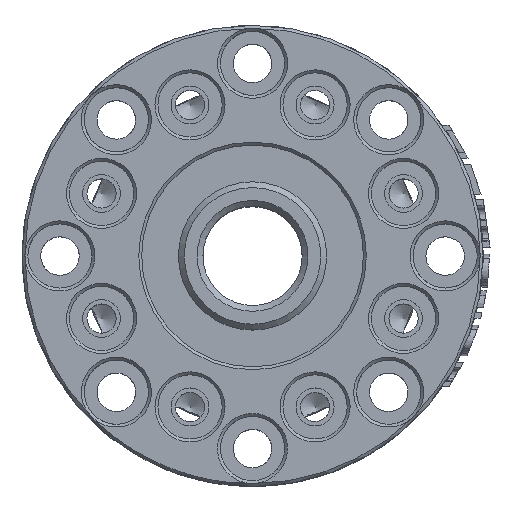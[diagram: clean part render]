
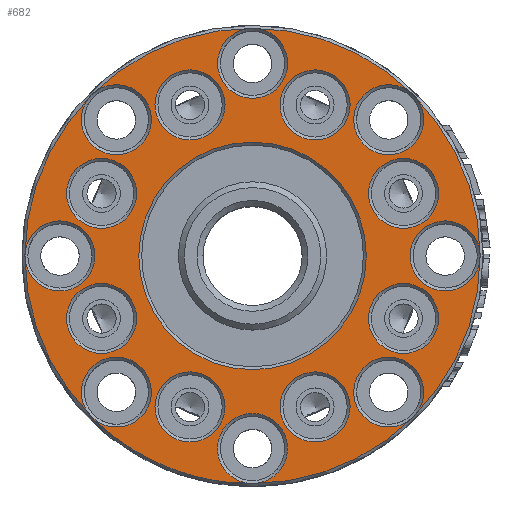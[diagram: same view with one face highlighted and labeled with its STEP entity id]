
A CAD part, top view. The second image highlights one B-rep face of the part: STEP entity #682.
In plain terms, the highlighted planar face has unit normal (0, 0, 1).
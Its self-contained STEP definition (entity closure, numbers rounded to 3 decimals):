
#295=PLANE('',#5120);
#682=ADVANCED_FACE('',(#1031,#1032,#1033,#1034,#1035,#1036,#1037,#1038,
#1039,#1040),#295,.F.);
#1031=FACE_BOUND('',#1441,.T.);
#1032=FACE_BOUND('',#1442,.T.);
#1033=FACE_BOUND('',#1443,.T.);
#1034=FACE_BOUND('',#1444,.T.);
#1035=FACE_BOUND('',#1445,.T.);
#1036=FACE_BOUND('',#1446,.T.);
#1037=FACE_BOUND('',#1447,.T.);
#1038=FACE_BOUND('',#1448,.T.);
#1039=FACE_BOUND('',#1449,.T.);
#1040=FACE_BOUND('',#1450,.T.);
#1441=EDGE_LOOP('',(#3215));
#1442=EDGE_LOOP('',(#3216));
#1443=EDGE_LOOP('',(#3217));
#1444=EDGE_LOOP('',(#3218));
#1445=EDGE_LOOP('',(#3219));
#1446=EDGE_LOOP('',(#3220));
#1447=EDGE_LOOP('',(#3221));
#1448=EDGE_LOOP('',(#3222));
#1449=EDGE_LOOP('',(#3223));
#1450=EDGE_LOOP('',(#3224,#3225,#3226,#3227,#3228,#3229,#3230,#3231,#3232,
#3233,#3234,#3235,#3236,#3237,#3238,#3239));
#1939=CIRCLE('',#4972,39.);
#1940=CIRCLE('',#4973,39.);
#1941=CIRCLE('',#4974,39.);
#1942=CIRCLE('',#4975,39.);
#1943=CIRCLE('',#4976,39.);
#1944=CIRCLE('',#4977,39.);
#1945=CIRCLE('',#4978,39.);
#1946=CIRCLE('',#4979,39.);
#1948=CIRCLE('',#4982,19.5);
#1950=CIRCLE('',#4985,6.);
#1955=CIRCLE('',#4993,6.);
#1960=CIRCLE('',#5001,6.);
#1965=CIRCLE('',#5009,6.);
#1970=CIRCLE('',#5017,6.);
#1975=CIRCLE('',#5025,6.);
#1980=CIRCLE('',#5033,6.);
#1985=CIRCLE('',#5041,6.);
#1990=CIRCLE('',#5049,6.);
#1994=CIRCLE('',#5055,6.);
#1998=CIRCLE('',#5061,6.);
#2002=CIRCLE('',#5067,6.);
#2006=CIRCLE('',#5073,6.);
#2010=CIRCLE('',#5079,6.);
#2014=CIRCLE('',#5085,6.);
#2018=CIRCLE('',#5091,6.);
#3215=ORIENTED_EDGE('',*,*,#4264,.T.);
#3216=ORIENTED_EDGE('',*,*,#4266,.F.);
#3217=ORIENTED_EDGE('',*,*,#4271,.F.);
#3218=ORIENTED_EDGE('',*,*,#4276,.F.);
#3219=ORIENTED_EDGE('',*,*,#4281,.F.);
#3220=ORIENTED_EDGE('',*,*,#4286,.F.);
#3221=ORIENTED_EDGE('',*,*,#4291,.F.);
#3222=ORIENTED_EDGE('',*,*,#4296,.F.);
#3223=ORIENTED_EDGE('',*,*,#4301,.F.);
#3224=ORIENTED_EDGE('',*,*,#4312,.F.);
#3225=ORIENTED_EDGE('',*,*,#4259,.T.);
#3226=ORIENTED_EDGE('',*,*,#4306,.F.);
#3227=ORIENTED_EDGE('',*,*,#4258,.T.);
#3228=ORIENTED_EDGE('',*,*,#4348,.F.);
#3229=ORIENTED_EDGE('',*,*,#4257,.T.);
#3230=ORIENTED_EDGE('',*,*,#4342,.F.);
#3231=ORIENTED_EDGE('',*,*,#4256,.T.);
#3232=ORIENTED_EDGE('',*,*,#4336,.F.);
#3233=ORIENTED_EDGE('',*,*,#4255,.T.);
#3234=ORIENTED_EDGE('',*,*,#4330,.F.);
#3235=ORIENTED_EDGE('',*,*,#4262,.T.);
#3236=ORIENTED_EDGE('',*,*,#4324,.F.);
#3237=ORIENTED_EDGE('',*,*,#4261,.T.);
#3238=ORIENTED_EDGE('',*,*,#4318,.F.);
#3239=ORIENTED_EDGE('',*,*,#4260,.T.);
#3655=VERTEX_POINT('',#8921);
#3656=VERTEX_POINT('',#8922);
#3657=VERTEX_POINT('',#8924);
#3658=VERTEX_POINT('',#8926);
#3659=VERTEX_POINT('',#8928);
#3660=VERTEX_POINT('',#8930);
#3661=VERTEX_POINT('',#8932);
#3662=VERTEX_POINT('',#8934);
#3664=VERTEX_POINT('',#8940);
#3666=VERTEX_POINT('',#8945);
#3671=VERTEX_POINT('',#8958);
#3676=VERTEX_POINT('',#8971);
#3681=VERTEX_POINT('',#8984);
#3686=VERTEX_POINT('',#8997);
#3691=VERTEX_POINT('',#9010);
#3696=VERTEX_POINT('',#9023);
#3701=VERTEX_POINT('',#9036);
#4255=EDGE_CURVE('',#3655,#3656,#1939,.T.);
#4256=EDGE_CURVE('',#3657,#3655,#1940,.T.);
#4257=EDGE_CURVE('',#3658,#3657,#1941,.T.);
#4258=EDGE_CURVE('',#3659,#3658,#1942,.T.);
#4259=EDGE_CURVE('',#3660,#3659,#1943,.T.);
#4260=EDGE_CURVE('',#3661,#3660,#1944,.T.);
#4261=EDGE_CURVE('',#3662,#3661,#1945,.T.);
#4262=EDGE_CURVE('',#3656,#3662,#1946,.T.);
#4264=EDGE_CURVE('',#3664,#3664,#1948,.T.);
#4266=EDGE_CURVE('',#3666,#3666,#1950,.T.);
#4271=EDGE_CURVE('',#3671,#3671,#1955,.T.);
#4276=EDGE_CURVE('',#3676,#3676,#1960,.T.);
#4281=EDGE_CURVE('',#3681,#3681,#1965,.T.);
#4286=EDGE_CURVE('',#3686,#3686,#1970,.T.);
#4291=EDGE_CURVE('',#3691,#3691,#1975,.T.);
#4296=EDGE_CURVE('',#3696,#3696,#1980,.T.);
#4301=EDGE_CURVE('',#3701,#3701,#1985,.T.);
#4306=EDGE_CURVE('',#3659,#3659,#1990,.T.);
#4312=EDGE_CURVE('',#3660,#3660,#1994,.T.);
#4318=EDGE_CURVE('',#3661,#3661,#1998,.T.);
#4324=EDGE_CURVE('',#3662,#3662,#2002,.T.);
#4330=EDGE_CURVE('',#3656,#3656,#2006,.T.);
#4336=EDGE_CURVE('',#3655,#3655,#2010,.T.);
#4342=EDGE_CURVE('',#3657,#3657,#2014,.T.);
#4348=EDGE_CURVE('',#3658,#3658,#2018,.T.);
#4972=AXIS2_PLACEMENT_3D('',#8920,#5970,#5971);
#4973=AXIS2_PLACEMENT_3D('',#8923,#5972,#5973);
#4974=AXIS2_PLACEMENT_3D('',#8925,#5974,#5975);
#4975=AXIS2_PLACEMENT_3D('',#8927,#5976,#5977);
#4976=AXIS2_PLACEMENT_3D('',#8929,#5978,#5979);
#4977=AXIS2_PLACEMENT_3D('',#8931,#5980,#5981);
#4978=AXIS2_PLACEMENT_3D('',#8933,#5982,#5983);
#4979=AXIS2_PLACEMENT_3D('',#8935,#5984,#5985);
#4982=AXIS2_PLACEMENT_3D('',#8939,#5990,#5991);
#4985=AXIS2_PLACEMENT_3D('',#8944,#5996,#5997);
#4993=AXIS2_PLACEMENT_3D('',#8957,#6012,#6013);
#5001=AXIS2_PLACEMENT_3D('',#8970,#6028,#6029);
#5009=AXIS2_PLACEMENT_3D('',#8983,#6044,#6045);
#5017=AXIS2_PLACEMENT_3D('',#8996,#6060,#6061);
#5025=AXIS2_PLACEMENT_3D('',#9009,#6076,#6077);
#5033=AXIS2_PLACEMENT_3D('',#9022,#6092,#6093);
#5041=AXIS2_PLACEMENT_3D('',#9035,#6108,#6109);
#5049=AXIS2_PLACEMENT_3D('',#9048,#6124,#6125);
#5055=AXIS2_PLACEMENT_3D('',#9067,#6136,#6137);
#5061=AXIS2_PLACEMENT_3D('',#9086,#6148,#6149);
#5067=AXIS2_PLACEMENT_3D('',#9105,#6160,#6161);
#5073=AXIS2_PLACEMENT_3D('',#9124,#6172,#6173);
#5079=AXIS2_PLACEMENT_3D('',#9143,#6184,#6185);
#5085=AXIS2_PLACEMENT_3D('',#9162,#6196,#6197);
#5091=AXIS2_PLACEMENT_3D('',#9181,#6208,#6209);
#5120=AXIS2_PLACEMENT_3D('',#9225,#6266,#6267);
#5970=DIRECTION('',(0.,0.,1.));
#5971=DIRECTION('',(-1.,0.,0.));
#5972=DIRECTION('',(0.,0.,1.));
#5973=DIRECTION('',(-1.,0.,0.));
#5974=DIRECTION('',(0.,0.,1.));
#5975=DIRECTION('',(-1.,0.,0.));
#5976=DIRECTION('',(0.,0.,1.));
#5977=DIRECTION('',(-1.,0.,0.));
#5978=DIRECTION('',(0.,0.,1.));
#5979=DIRECTION('',(-1.,0.,0.));
#5980=DIRECTION('',(0.,0.,1.));
#5981=DIRECTION('',(-1.,0.,0.));
#5982=DIRECTION('',(0.,0.,1.));
#5983=DIRECTION('',(-1.,0.,0.));
#5984=DIRECTION('',(0.,0.,1.));
#5985=DIRECTION('',(-1.,0.,0.));
#5990=DIRECTION('',(0.,0.,-1.));
#5991=DIRECTION('',(-1.,0.,0.));
#5996=DIRECTION('',(0.,0.,1.));
#5997=DIRECTION('',(1.,0.,0.));
#6012=DIRECTION('',(0.,0.,1.));
#6013=DIRECTION('',(1.,0.,0.));
#6028=DIRECTION('',(0.,0.,1.));
#6029=DIRECTION('',(1.,0.,0.));
#6044=DIRECTION('',(0.,0.,1.));
#6045=DIRECTION('',(1.,0.,0.));
#6060=DIRECTION('',(0.,0.,1.));
#6061=DIRECTION('',(1.,0.,0.));
#6076=DIRECTION('',(0.,0.,1.));
#6077=DIRECTION('',(1.,0.,0.));
#6092=DIRECTION('',(0.,0.,1.));
#6093=DIRECTION('',(1.,0.,0.));
#6108=DIRECTION('',(0.,0.,1.));
#6109=DIRECTION('',(1.,0.,0.));
#6124=DIRECTION('',(0.,0.,1.));
#6125=DIRECTION('',(1.,0.,0.));
#6136=DIRECTION('',(0.,0.,1.));
#6137=DIRECTION('',(1.,0.,0.));
#6148=DIRECTION('',(0.,0.,1.));
#6149=DIRECTION('',(1.,0.,0.));
#6160=DIRECTION('',(0.,0.,1.));
#6161=DIRECTION('',(1.,0.,0.));
#6172=DIRECTION('',(0.,0.,1.));
#6173=DIRECTION('',(1.,0.,0.));
#6184=DIRECTION('',(0.,0.,1.));
#6185=DIRECTION('',(1.,0.,0.));
#6196=DIRECTION('',(0.,0.,1.));
#6197=DIRECTION('',(1.,0.,0.));
#6208=DIRECTION('',(0.,0.,1.));
#6209=DIRECTION('',(1.,0.,0.));
#6266=DIRECTION('',(0.,0.,-1.));
#6267=DIRECTION('',(1.,0.,0.));
#8920=CARTESIAN_POINT('',(0.,0.,
9.));
#8921=CARTESIAN_POINT('',(-39.,0.,9.));
#8922=CARTESIAN_POINT('',(-27.577,-27.577,9.));
#8923=CARTESIAN_POINT('',(0.,0.,
9.));
#8924=CARTESIAN_POINT('',(-27.577,27.577,9.));
#8925=CARTESIAN_POINT('',(0.,0.,
9.));
#8926=CARTESIAN_POINT('',(0.,39.,9.));
#8927=CARTESIAN_POINT('',(0.,0.,
9.));
#8928=CARTESIAN_POINT('',(27.577,27.577,9.));
#8929=CARTESIAN_POINT('',(0.,0.,
9.));
#8930=CARTESIAN_POINT('',(39.,0.,9.));
#8931=CARTESIAN_POINT('',(0.,0.,
9.));
#8932=CARTESIAN_POINT('',(27.577,-27.577,9.));
#8933=CARTESIAN_POINT('',(0.,0.,
9.));
#8934=CARTESIAN_POINT('',(0.,-39.,9.));
#8935=CARTESIAN_POINT('',(0.,0.,
9.));
#8939=CARTESIAN_POINT('',(0.,0.,
9.));
#8940=CARTESIAN_POINT('',(-19.5,0.,9.));
#8944=CARTESIAN_POINT('',(10.715,25.869,9.));
#8945=CARTESIAN_POINT('',(16.715,25.869,9.));
#8957=CARTESIAN_POINT('',(25.869,10.715,9.));
#8958=CARTESIAN_POINT('',(31.869,10.715,9.));
#8970=CARTESIAN_POINT('',(25.869,-10.715,9.));
#8971=CARTESIAN_POINT('',(31.869,-10.715,9.));
#8983=CARTESIAN_POINT('',(10.715,-25.869,9.));
#8984=CARTESIAN_POINT('',(16.715,-25.869,9.));
#8996=CARTESIAN_POINT('',(-10.715,-25.869,9.));
#8997=CARTESIAN_POINT('',(-4.715,-25.869,9.));
#9009=CARTESIAN_POINT('',(-25.869,-10.715,9.));
#9010=CARTESIAN_POINT('',(-19.869,-10.715,9.));
#9022=CARTESIAN_POINT('',(-25.869,10.715,9.));
#9023=CARTESIAN_POINT('',(-19.869,10.715,9.));
#9035=CARTESIAN_POINT('',(-10.715,25.869,9.));
#9036=CARTESIAN_POINT('',(-4.715,25.869,9.));
#9048=CARTESIAN_POINT('',(23.335,23.335,9.));
#9067=CARTESIAN_POINT('',(33.,0.,9.));
#9086=CARTESIAN_POINT('',(23.335,-23.335,9.));
#9105=CARTESIAN_POINT('',(0.,-33.,9.));
#9124=CARTESIAN_POINT('',(-23.335,-23.335,9.));
#9143=CARTESIAN_POINT('',(-33.,0.,9.));
#9162=CARTESIAN_POINT('',(-23.335,23.335,9.));
#9181=CARTESIAN_POINT('',(0.,33.,9.));
#9225=CARTESIAN_POINT('',(0.,-19.,9.));
